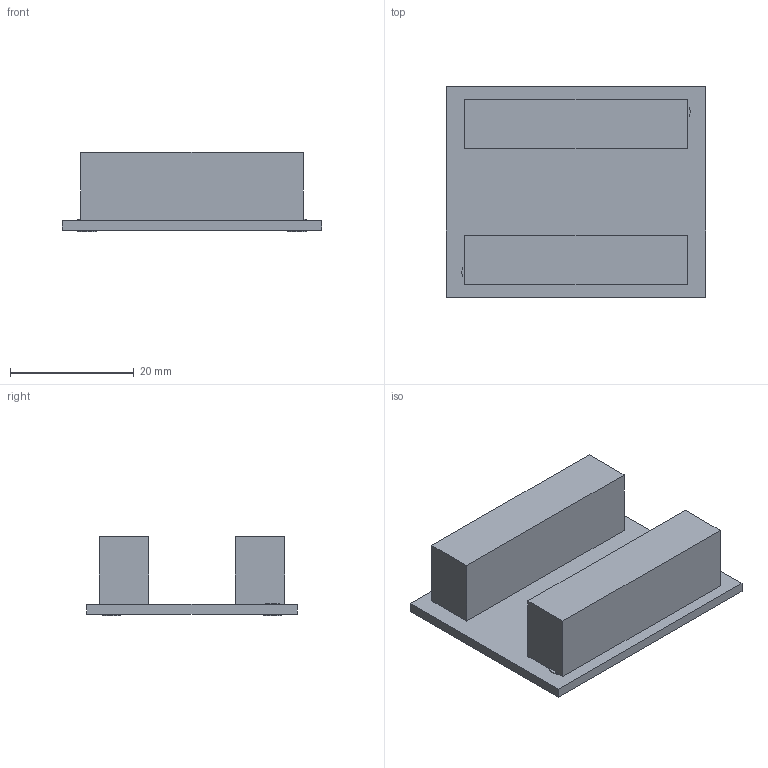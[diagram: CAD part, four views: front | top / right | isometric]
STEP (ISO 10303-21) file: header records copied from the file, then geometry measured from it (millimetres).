
FILE_DESCRIPTION(('Open CASCADE Model'),'2;1');
FILE_NAME('Open CASCADE Shape Model','2026-08-07T13:51:21',('Author'),( 'Open CASCADE'),'Open CASCADE STEP processor 7.9','Open CASCADE 7.9' ,'Unknown');
FILE_SCHEMA(('AUTOMOTIVE_DESIGN { 1 0 10303 214 1 1 1 1 }'));
Length unit declared in the file: millimetre
Products named in the file (1): D4184模組(外購)
Bounding box: 42 x 34 x 12.8 mm (x, y, z)
Volume: 8623.9 mm3; surface area: 5039.1 mm2
Topology: 1 solids, 1 shells, 84 faces, 234 edges, 156 vertices
Faces by surface type: plane 84
Entity records: 5690 total; most frequent: CARTESIAN_POINT 943, DIRECTION 872, LINE 702, VECTOR 702, ORIENTED_EDGE 468, PCURVE 468, DEFINITIONAL_REPRESENTATION 468, EDGE_CURVE 234
